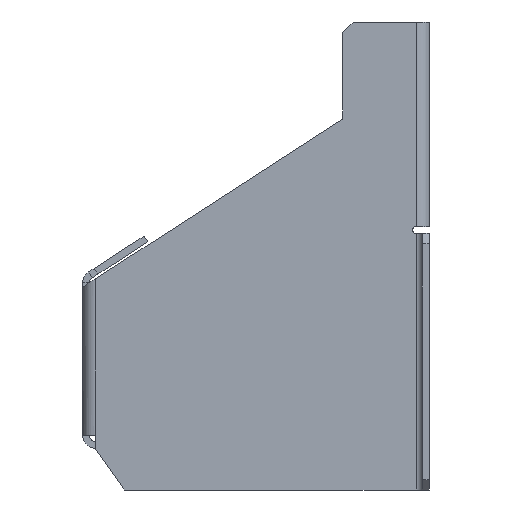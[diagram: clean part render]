
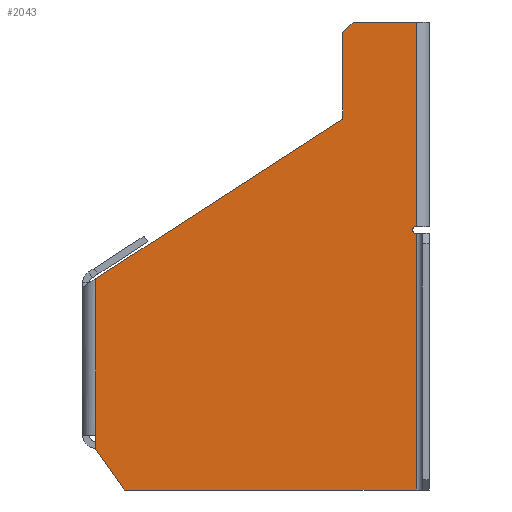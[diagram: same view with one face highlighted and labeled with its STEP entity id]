
A CAD part, left-side view. The second image highlights one B-rep face of the part: STEP entity #2043.
In plain terms, the highlighted planar face has unit normal (-1, 0, 0).
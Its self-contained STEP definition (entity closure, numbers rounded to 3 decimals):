
#27 = VECTOR ( 'NONE', #1785, 1000. ) ;
#123 = VECTOR ( 'NONE', #773, 1000. ) ;
#145 = VERTEX_POINT ( 'NONE', #873 ) ;
#148 = EDGE_CURVE ( 'NONE', #1164, #3641, #1896, .T. ) ;
#168 = LINE ( 'NONE', #1895, #3688 ) ;
#172 = PLANE ( 'NONE',  #1431 ) ;
#193 = VERTEX_POINT ( 'NONE', #1108 ) ;
#310 = DIRECTION ( 'NONE',  ( 0., -1., 0. ) ) ;
#312 = VECTOR ( 'NONE', #2127, 1000. ) ;
#339 = ORIENTED_EDGE ( 'NONE', *, *, #2670, .T. ) ;
#489 = VECTOR ( 'NONE', #1323, 1000. ) ;
#578 = LINE ( 'NONE', #1573, #489 ) ;
#594 = VERTEX_POINT ( 'NONE', #1284 ) ;
#632 = DIRECTION ( 'NONE',  ( 1., 0., 0. ) ) ;
#647 = CARTESIAN_POINT ( 'NONE',  ( -27.5, 0., 0. ) ) ;
#666 = ORIENTED_EDGE ( 'NONE', *, *, #1287, .T. ) ;
#673 = EDGE_CURVE ( 'NONE', #3125, #1790, #578, .T. ) ;
#694 = CARTESIAN_POINT ( 'NONE',  ( -27.5, 94.2, 12. ) ) ;
#706 = VERTEX_POINT ( 'NONE', #1660 ) ;
#712 = DIRECTION ( 'NONE',  ( 0., 0.707, -0.707 ) ) ;
#720 = VECTOR ( 'NONE', #940, 1000. ) ;
#764 = VERTEX_POINT ( 'NONE', #3646 ) ;
#773 = DIRECTION ( 'NONE',  ( 0., 0., 1. ) ) ;
#800 = DIRECTION ( 'NONE',  ( 0., 0., -1. ) ) ;
#818 = LINE ( 'NONE', #3602, #1509 ) ;
#847 = FACE_OUTER_BOUND ( 'NONE', #1804, .T. ) ;
#873 = CARTESIAN_POINT ( 'NONE',  ( -27.5, 1.8, 76. ) ) ;
#882 = ORIENTED_EDGE ( 'NONE', *, *, #2317, .T. ) ;
#883 = CARTESIAN_POINT ( 'NONE',  ( -27.5, 23., 132. ) ) ;
#897 = LINE ( 'NONE', #3005, #2204 ) ;
#940 = DIRECTION ( 'NONE',  ( 0., 0., 1. ) ) ;
#972 = ORIENTED_EDGE ( 'NONE', *, *, #1962, .F. ) ;
#1033 = DIRECTION ( 'NONE',  ( 0., -1., 0. ) ) ;
#1106 = CARTESIAN_POINT ( 'NONE',  ( -27.5, 94.2, 60.957 ) ) ;
#1107 = AXIS2_PLACEMENT_3D ( 'NONE', #1165, #632, #310 ) ;
#1108 = CARTESIAN_POINT ( 'NONE',  ( -27.5, 94.2, 11.576 ) ) ;
#1129 = VECTOR ( 'NONE', #1449, 1000. ) ;
#1164 = VERTEX_POINT ( 'NONE', #2552 ) ;
#1165 = CARTESIAN_POINT ( 'NONE',  ( -27.5, 1.8, 75. ) ) ;
#1272 = LINE ( 'NONE', #2701, #312 ) ;
#1284 = CARTESIAN_POINT ( 'NONE',  ( -27.5, 1.8, 74. ) ) ;
#1287 = EDGE_CURVE ( 'NONE', #594, #145, #2402, .T. ) ;
#1323 = DIRECTION ( 'NONE',  ( 0., -0.84, 0.543 ) ) ;
#1343 = CARTESIAN_POINT ( 'NONE',  ( -27.5, 94.2, 135. ) ) ;
#1347 = ORIENTED_EDGE ( 'NONE', *, *, #2408, .F. ) ;
#1350 = VERTEX_POINT ( 'NONE', #883 ) ;
#1368 = CARTESIAN_POINT ( 'NONE',  ( -27.5, 20., 135. ) ) ;
#1431 = AXIS2_PLACEMENT_3D ( 'NONE', #3035, #1609, #1033 ) ;
#1449 = DIRECTION ( 'NONE',  ( 0., 0., -1. ) ) ;
#1509 = VECTOR ( 'NONE', #800, 1000. ) ;
#1573 = CARTESIAN_POINT ( 'NONE',  ( -27.5, -5.986, 125.744 ) ) ;
#1609 = DIRECTION ( 'NONE',  ( -1., 0., 0. ) ) ;
#1660 = CARTESIAN_POINT ( 'NONE',  ( -27.5, 1.8, 0. ) ) ;
#1785 = DIRECTION ( 'NONE',  ( 0., 1., 0. ) ) ;
#1790 = VERTEX_POINT ( 'NONE', #2102 ) ;
#1804 = EDGE_LOOP ( 'NONE', ( #2103, #666, #1347, #339, #2068, #1931, #3699, #882, #2445, #972, #2076, #2157 ) ) ;
#1814 = LINE ( 'NONE', #1343, #3744 ) ;
#1880 = EDGE_CURVE ( 'NONE', #3332, #1350, #897, .T. ) ;
#1895 = CARTESIAN_POINT ( 'NONE',  ( -27.5, 1.8, 135. ) ) ;
#1896 = LINE ( 'NONE', #3721, #1129 ) ;
#1914 = DIRECTION ( 'NONE',  ( 0., 0., -1. ) ) ;
#1931 = ORIENTED_EDGE ( 'NONE', *, *, #2975, .F. ) ;
#1949 = CARTESIAN_POINT ( 'NONE',  ( -27.5, 1.8, 135. ) ) ;
#1962 = EDGE_CURVE ( 'NONE', #193, #3641, #2541, .T. ) ;
#2043 = ADVANCED_FACE ( 'NONE', ( #847 ), #172, .T. ) ;
#2068 = ORIENTED_EDGE ( 'NONE', *, *, #1880, .T. ) ;
#2076 = ORIENTED_EDGE ( 'NONE', *, *, #2837, .F. ) ;
#2102 = CARTESIAN_POINT ( 'NONE',  ( -27.5, 23., 107. ) ) ;
#2103 = ORIENTED_EDGE ( 'NONE', *, *, #2999, .F. ) ;
#2127 = DIRECTION ( 'NONE',  ( 0., 0.578, 0.816 ) ) ;
#2157 = ORIENTED_EDGE ( 'NONE', *, *, #2787, .F. ) ;
#2204 = VECTOR ( 'NONE', #712, 1000. ) ;
#2317 = EDGE_CURVE ( 'NONE', #3125, #1164, #1814, .T. ) ;
#2336 = LINE ( 'NONE', #647, #3012 ) ;
#2402 = CIRCLE ( 'NONE', #1107, 1. ) ;
#2408 = EDGE_CURVE ( 'NONE', #3156, #145, #818, .T. ) ;
#2445 = ORIENTED_EDGE ( 'NONE', *, *, #148, .T. ) ;
#2477 = CARTESIAN_POINT ( 'NONE',  ( -27.5, 23., 135. ) ) ;
#2541 = LINE ( 'NONE', #694, #720 ) ;
#2552 = CARTESIAN_POINT ( 'NONE',  ( -27.5, 94.2, 15.8 ) ) ;
#2670 = EDGE_CURVE ( 'NONE', #3156, #3332, #2921, .T. ) ;
#2680 = CARTESIAN_POINT ( 'NONE',  ( -27.5, 94.2, 12. ) ) ;
#2701 = CARTESIAN_POINT ( 'NONE',  ( -27.5, 120.943, 49.332 ) ) ;
#2734 = LINE ( 'NONE', #2477, #123 ) ;
#2787 = EDGE_CURVE ( 'NONE', #706, #764, #2336, .T. ) ;
#2837 = EDGE_CURVE ( 'NONE', #764, #193, #1272, .T. ) ;
#2921 = LINE ( 'NONE', #3492, #27 ) ;
#2975 = EDGE_CURVE ( 'NONE', #1790, #1350, #2734, .T. ) ;
#2999 = EDGE_CURVE ( 'NONE', #594, #706, #168, .T. ) ;
#3005 = CARTESIAN_POINT ( 'NONE',  ( -27.5, 10., 145. ) ) ;
#3012 = VECTOR ( 'NONE', #3246, 1000. ) ;
#3035 = CARTESIAN_POINT ( 'NONE',  ( -27.5, 0., 135. ) ) ;
#3054 = DIRECTION ( 'NONE',  ( 0., 0., -1. ) ) ;
#3125 = VERTEX_POINT ( 'NONE', #1106 ) ;
#3156 = VERTEX_POINT ( 'NONE', #1949 ) ;
#3246 = DIRECTION ( 'NONE',  ( 0., 1., 0. ) ) ;
#3332 = VERTEX_POINT ( 'NONE', #1368 ) ;
#3492 = CARTESIAN_POINT ( 'NONE',  ( -27.5, 0., 135. ) ) ;
#3602 = CARTESIAN_POINT ( 'NONE',  ( -27.5, 1.8, 135. ) ) ;
#3641 = VERTEX_POINT ( 'NONE', #2680 ) ;
#3646 = CARTESIAN_POINT ( 'NONE',  ( -27.5, 86., 0. ) ) ;
#3688 = VECTOR ( 'NONE', #3054, 1000. ) ;
#3699 = ORIENTED_EDGE ( 'NONE', *, *, #673, .F. ) ;
#3721 = CARTESIAN_POINT ( 'NONE',  ( -27.5, 94.2, 135. ) ) ;
#3744 = VECTOR ( 'NONE', #1914, 1000. ) ;
